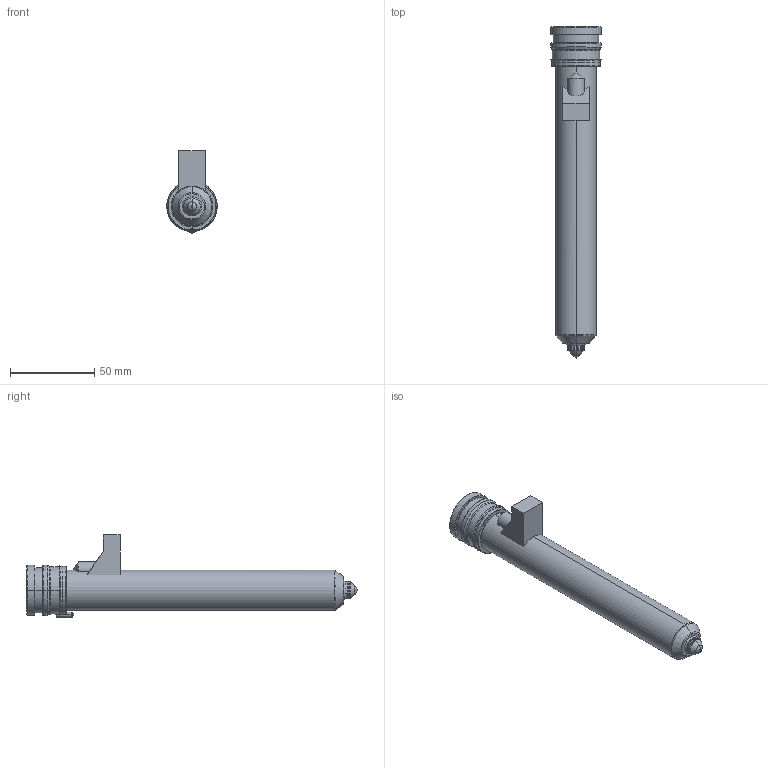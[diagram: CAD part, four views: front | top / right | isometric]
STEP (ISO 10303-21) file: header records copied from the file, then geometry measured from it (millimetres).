
FILE_DESCRIPTION((''),'2;1');
FILE_NAME('MPN-10-29-VX10-176-M','2026-02-05T12:57:44',('UPTIO'),('Thermoplay S.p.A.'),'CREO PARAMETRIC BY PTC INC, 2023494','CREO PARAMETRIC BY PTC INC, 2023494','');
FILE_SCHEMA(('CONFIG_CONTROL_DESIGN','SHAPE_APPEARANCE_LAYERS_GROUPS'));
Length unit declared in the file: millimetre
Products named in the file (1): MPN-10-29-VX10-176-M
Bounding box: 30 x 197.5 x 49 mm (x, y, z)
Volume: 60970 mm3; surface area: 62821.8 mm2
Topology: 3 solids, 5 shells, 547 faces, 1387 edges, 846 vertices
Faces by surface type: cylinder 179, plane 147, torus 71, bspline 70, cone 68, sphere 8, extrusion 4
Entity records: 28727 total; most frequent: CARTESIAN_POINT 12762, ORIENTED_EDGE 2760, DIRECTION 2638, EDGE_CURVE 1380, AXIS2_PLACEMENT_3D 1050, VERTEX_POINT 846, EDGE_LOOP 576, CIRCLE 576
